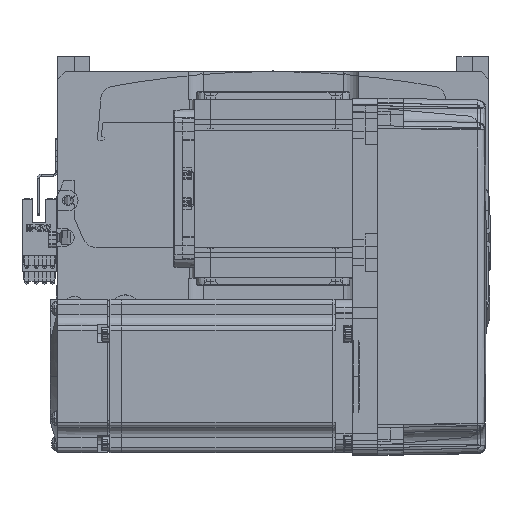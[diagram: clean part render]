
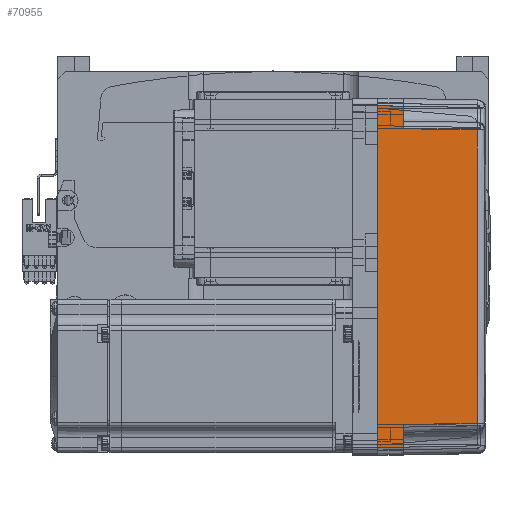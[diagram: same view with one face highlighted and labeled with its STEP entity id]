
A CAD part, top view. The second image highlights one B-rep face of the part: STEP entity #70955.
In plain terms, the highlighted planar face has unit normal (0.018, 0, 1) as drawn and (0, 1, 0.017) by its records, which use the part's own axes.
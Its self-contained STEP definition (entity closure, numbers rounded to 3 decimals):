
#2064 = ORIENTED_EDGE ( 'NONE', *, *, #61821, .T. ) ;
#2701 = FACE_OUTER_BOUND ( 'NONE', #6557, .T. ) ;
#3581 = PLANE ( 'NONE',  #41644 ) ;
#4007 = DIRECTION ( 'NONE',  ( 1., 0., 0. ) ) ;
#5320 = DIRECTION ( 'NONE',  ( 0., -0.017, 1. ) ) ;
#6557 = EDGE_LOOP ( 'NONE', ( #68208, #42684, #20094, #2064, #61226, #46173, #68353, #28258 ) ) ;
#9214 = LINE ( 'NONE', #36750, #58423 ) ;
#10933 = CARTESIAN_POINT ( 'NONE',  ( 57.495, 35.32, 38.985 ) ) ;
#10942 = VECTOR ( 'NONE', #58537, 1000. ) ;
#11182 = DIRECTION ( 'NONE',  ( 0.017, -0.017, 1. ) ) ;
#11395 = VECTOR ( 'NONE', #31271, 1000. ) ;
#12841 = VERTEX_POINT ( 'NONE', #53594 ) ;
#13310 = VECTOR ( 'NONE', #50497, 1000. ) ;
#14173 = LINE ( 'NONE', #61239, #13310 ) ;
#16064 = EDGE_CURVE ( 'NONE', #37033, #12841, #14173, .T. ) ;
#18152 = EDGE_CURVE ( 'NONE', #29556, #19592, #9214, .T. ) ;
#19041 = CARTESIAN_POINT ( 'NONE',  ( 58., 35.825, 10. ) ) ;
#19592 = VERTEX_POINT ( 'NONE', #19041 ) ;
#19679 = EDGE_CURVE ( 'NONE', #41401, #27614, #56554, .T. ) ;
#20094 = ORIENTED_EDGE ( 'NONE', *, *, #21898, .T. ) ;
#20732 = CARTESIAN_POINT ( 'NONE',  ( -66.826, 35.825, 10. ) ) ;
#21556 = CARTESIAN_POINT ( 'NONE',  ( -67., 36., 0. ) ) ;
#21898 = EDGE_CURVE ( 'NONE', #12841, #63825, #48970, .T. ) ;
#23567 = CARTESIAN_POINT ( 'NONE',  ( -57.495, 35.32, 38.985 ) ) ;
#23990 = LINE ( 'NONE', #33443, #39214 ) ;
#26249 = CARTESIAN_POINT ( 'NONE',  ( -58., 35.825, 10. ) ) ;
#27614 = VERTEX_POINT ( 'NONE', #40323 ) ;
#28258 = ORIENTED_EDGE ( 'NONE', *, *, #44096, .F. ) ;
#28300 = CARTESIAN_POINT ( 'NONE',  ( -57.495, 35.32, 38.985 ) ) ;
#29552 = VECTOR ( 'NONE', #4007, 1000. ) ;
#29556 = VERTEX_POINT ( 'NONE', #10933 ) ;
#29562 = EDGE_CURVE ( 'NONE', #58795, #37033, #23990, .T. ) ;
#31271 = DIRECTION ( 'NONE',  ( 0.017, -0.017, 1. ) ) ;
#33443 = CARTESIAN_POINT ( 'NONE',  ( -67., 36., 0. ) ) ;
#33897 = LINE ( 'NONE', #41757, #49960 ) ;
#34025 = CARTESIAN_POINT ( 'NONE',  ( 57.495, 35.32, 38.985 ) ) ;
#34620 = B_SPLINE_CURVE_WITH_KNOTS ( 'NONE', 3,
 ( #28300, #38813, #50527, #34025 ),
 .UNSPECIFIED., .F., .F.,
 ( 4, 4 ),
 ( 0., 1. ),
 .UNSPECIFIED. ) ;
#36750 = CARTESIAN_POINT ( 'NONE',  ( 57.495, 35.32, 38.985 ) ) ;
#37033 = VERTEX_POINT ( 'NONE', #20732 ) ;
#38813 = CARTESIAN_POINT ( 'NONE',  ( -19.165, 35.316, 39.181 ) ) ;
#39214 = VECTOR ( 'NONE', #11182, 1000. ) ;
#39565 = DIRECTION ( 'NONE',  ( 0., 1., 0.017 ) ) ;
#40316 = LINE ( 'NONE', #60493, #29552 ) ;
#40323 = CARTESIAN_POINT ( 'NONE',  ( 66.826, 35.825, 10. ) ) ;
#41401 = VERTEX_POINT ( 'NONE', #72631 ) ;
#41644 = AXIS2_PLACEMENT_3D ( 'NONE', #43584, #39565, #5320 ) ;
#41757 = CARTESIAN_POINT ( 'NONE',  ( 0., 36., 0. ) ) ;
#42684 = ORIENTED_EDGE ( 'NONE', *, *, #16064, .T. ) ;
#43584 = CARTESIAN_POINT ( 'NONE',  ( 70., 36., 0. ) ) ;
#44096 = EDGE_CURVE ( 'NONE', #58795, #41401, #33897, .T. ) ;
#46173 = ORIENTED_EDGE ( 'NONE', *, *, #69132, .T. ) ;
#47748 = DIRECTION ( 'NONE',  ( 0.017, 0.017, -1. ) ) ;
#47765 = CARTESIAN_POINT ( 'NONE',  ( 67.001, 36.001, -0.052 ) ) ;
#48970 = LINE ( 'NONE', #26249, #11395 ) ;
#49960 = VECTOR ( 'NONE', #52961, 1000. ) ;
#50497 = DIRECTION ( 'NONE',  ( 1., 0., 0. ) ) ;
#50527 = CARTESIAN_POINT ( 'NONE',  ( 19.165, 35.316, 39.181 ) ) ;
#52961 = DIRECTION ( 'NONE',  ( 1., 0., 0. ) ) ;
#53594 = CARTESIAN_POINT ( 'NONE',  ( -58., 35.825, 10. ) ) ;
#56554 = LINE ( 'NONE', #47765, #10942 ) ;
#58423 = VECTOR ( 'NONE', #47748, 1000. ) ;
#58537 = DIRECTION ( 'NONE',  ( -0.017, -0.017, 1. ) ) ;
#58795 = VERTEX_POINT ( 'NONE', #21556 ) ;
#60493 = CARTESIAN_POINT ( 'NONE',  ( 70., 35.825, 10. ) ) ;
#61226 = ORIENTED_EDGE ( 'NONE', *, *, #18152, .T. ) ;
#61239 = CARTESIAN_POINT ( 'NONE',  ( 70., 35.825, 10. ) ) ;
#61821 = EDGE_CURVE ( 'NONE', #63825, #29556, #34620, .T. ) ;
#63825 = VERTEX_POINT ( 'NONE', #23567 ) ;
#68208 = ORIENTED_EDGE ( 'NONE', *, *, #29562, .T. ) ;
#68353 = ORIENTED_EDGE ( 'NONE', *, *, #19679, .F. ) ;
#69132 = EDGE_CURVE ( 'NONE', #19592, #27614, #40316, .T. ) ;
#70955 = ADVANCED_FACE ( 'NONE', ( #2701 ), #3581, .T. ) ;
#72631 = CARTESIAN_POINT ( 'NONE',  ( 67., 36., 0. ) ) ;
